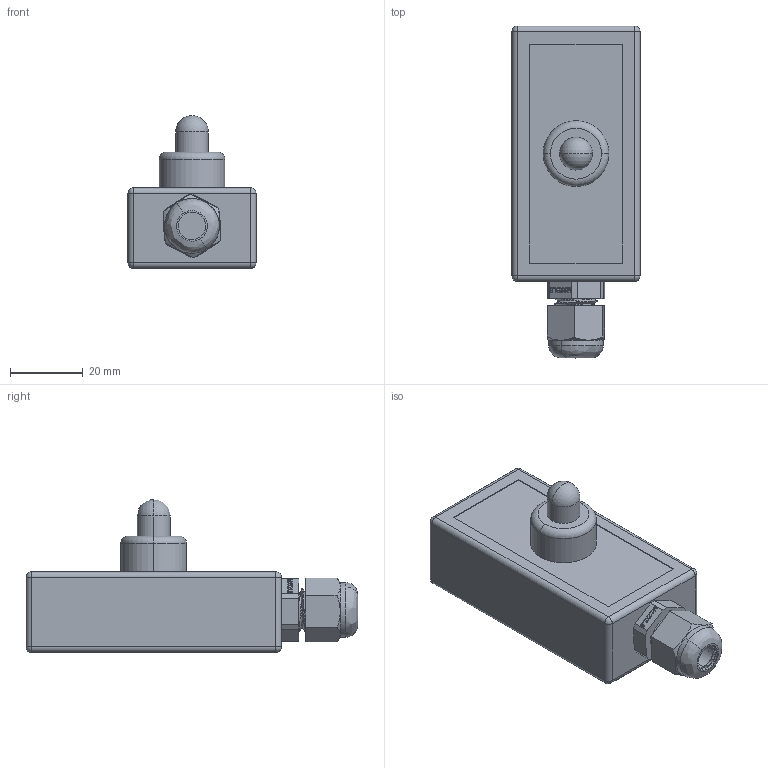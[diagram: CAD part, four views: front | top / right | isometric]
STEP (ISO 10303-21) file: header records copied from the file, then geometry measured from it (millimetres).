
FILE_DESCRIPTION (( 'STEP AP203' ), '1' );
FILE_NAME ('ELS DOLU.STEP', '2023-07-31T08:07:29', ( '' ), ( '' ), 'SwSTEP 2.0', 'SolidWorks 2023', '' );
FILE_SCHEMA (( 'CONFIG_CONTROL_DESIGN' ));
Length unit declared in the file: millimetre
Products named in the file (1): ELS DOLU
Bounding box: 35.1 x 91 x 41.9 mm (x, y, z)
Volume: 58968.6 mm3; surface area: 13231.5 mm2
Topology: 1 solids, 1 shells, 318 faces, 850 edges, 537 vertices
Faces by surface type: plane 179, cylinder 80, bspline 42, sphere 10, cone 5, torus 2
Entity records: 14933 total; most frequent: CARTESIAN_POINT 7531, ORIENTED_EDGE 1676, DIRECTION 1286, EDGE_CURVE 838, VERTEX_POINT 535, VECTOR 486, LINE 486, AXIS2_PLACEMENT_3D 400
